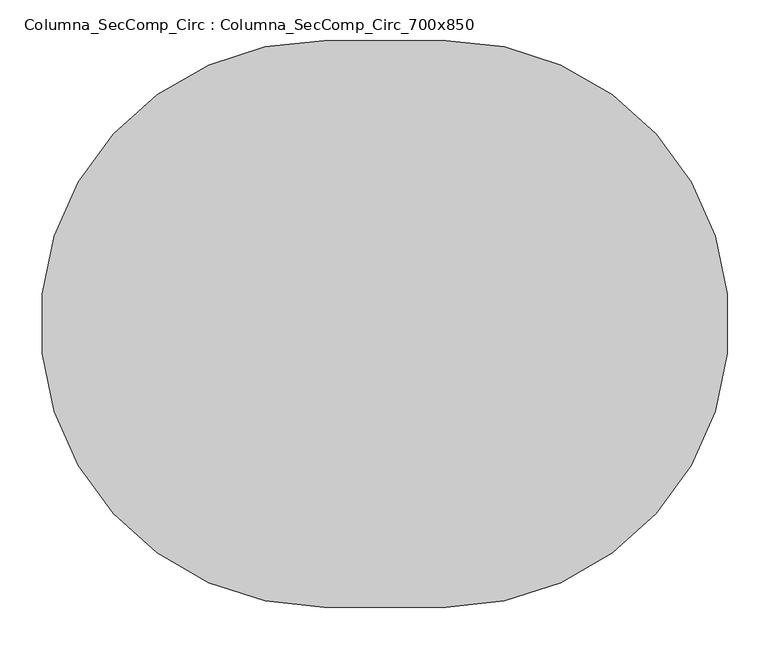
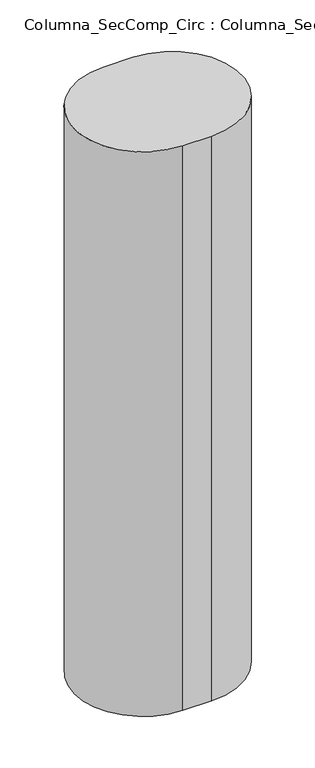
"""IFC4 building model written with IfcOpenShell, lengths in millimetres: column geometry, Columna_SecComp_Circ : Columna_SecComp_Circ_700x850."""

from ifc_helpers import new_model, si_unit, point, frame, frame_2d, origin, place, context, project, spatial, polyline, circle_curve, trimmed, segment, composite_curve, outline, extrude, source, transform, mapped, element, save


def columna_seccomp_circ_columna_seccomp_circ_700x850_ca78fd77(model_context):
    return source(origin(), model_context, "Body", "SweptSolid", [
        extrude(outline(composite_curve([segment(polyline([(-75.0, 350.0), (75.0, 350.0)]), True, "CONTINUOUS"), segment(trimmed(circle_curve(frame_2d((75.0, 0.0)), 350.0), [point((75.0, 350.0))], [point((75.0, -350.0))], False, "CARTESIAN"), True, "CONTINUOUS"), segment(polyline([(75.0, -350.0), (-75.0, -350.0)]), True, "CONTINUOUS"), segment(trimmed(circle_curve(frame_2d((-75.0, 0.0)), 350.0), [point((-75.0, -350.0))], [point((-75.0, 350.0))], False, "CARTESIAN"), True, "CONTINUOUS")], self_intersect=False)), frame((0.0, 0.0, -1600.0), z_axis=(0.0, 0.0, 1.0), x_axis=(1.0, 0.0, 0.0)), (0.0, 0.0, 1.0), 3050.0),
    ])


if __name__ == "__main__":
    model = new_model("IFC4")
    model_context = context("Model", 3, world=origin())
    ifc_project = project(units=[si_unit("LENGTHUNIT", "METRE", prefix="MILLI")], contexts=[model_context])
    site = spatial("IfcSite", under=ifc_project)
    building = spatial("IfcBuilding", under=site)
    placement = place(None, origin())
    columna_seccomp_circ_columna_seccomp_circ_700x850_shape = columna_seccomp_circ_columna_seccomp_circ_700x850_ca78fd77(model_context)
    element("IfcColumn", 1, ObjectType="Columna_SecComp_Circ : Columna_SecComp_Circ_700x850", at=placement, inside=building, context=model_context, shape_type="MappedRepresentation", body=[
        mapped(columna_seccomp_circ_columna_seccomp_circ_700x850_shape, transform((0.0, 0.0, 0.0), x_axis=(1.0, 0.0, 0.0), y_axis=(0.0, 1.0, 0.0), z_axis=(0.0, 0.0, 1.0))),
    ])
    save(model, "model.ifc")
